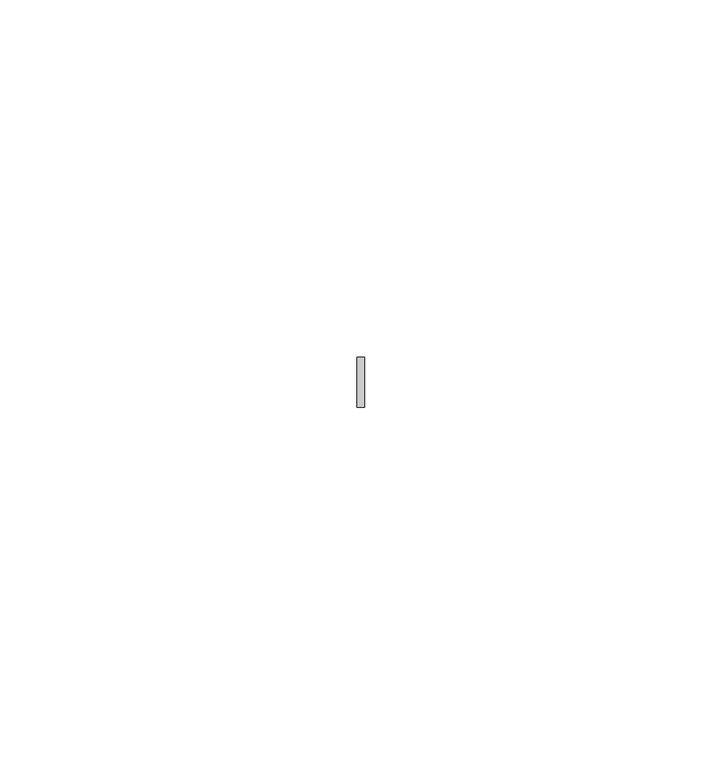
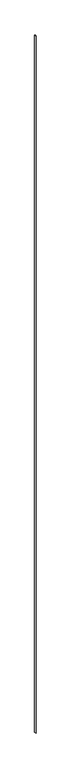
"""IFC4 building model written with IfcOpenShell, lengths in millimetres: member geometry, Прямоугольный импост : 11-AMG-1-Профиль (скотч 3М) 1 средний."""

from ifc_helpers import new_model, si_unit, frame, origin, place, context, project, spatial, polyline, outline, extrude, source, transform, mapped, element, save


def member_3b858c64(model_context):
    return source(origin(), model_context, "Body", "SweptSolid", [
        extrude(outline(polyline([(0.5087396, -3.5), (-0.5292752, -3.5), (-0.5292752, 3.5), (0.5087396, 3.5), (0.5087396, -3.5)])), frame((0.0, 0.0, -2720.0), z_axis=(0.0, 0.0, 1.0), x_axis=(1.0, 0.0, 0.0)), (0.0, 0.0, 1.0), 2720.0),
    ])


if __name__ == "__main__":
    model = new_model("IFC4")
    model_context = context("Model", 3, world=origin())
    ifc_project = project(units=[si_unit("LENGTHUNIT", "METRE", prefix="MILLI")], contexts=[model_context])
    site = spatial("IfcSite", under=ifc_project)
    building = spatial("IfcBuilding", under=site)
    placement = place(None, origin())
    member_shape = member_3b858c64(model_context)
    element("IfcMember", 1, ObjectType="Прямоугольный импост : 11-AMG-1-Профиль (скотч 3М) 1 средний", at=placement, inside=building, context=model_context, shape_type="MappedRepresentation", body=[
        mapped(member_shape, transform((0.0, 0.0, 0.0), x_axis=(1.0, 0.0, 0.0), y_axis=(0.0, 1.0, 0.0), z_axis=(0.0, 0.0, 1.0))),
    ])
    save(model, "model.ifc")
